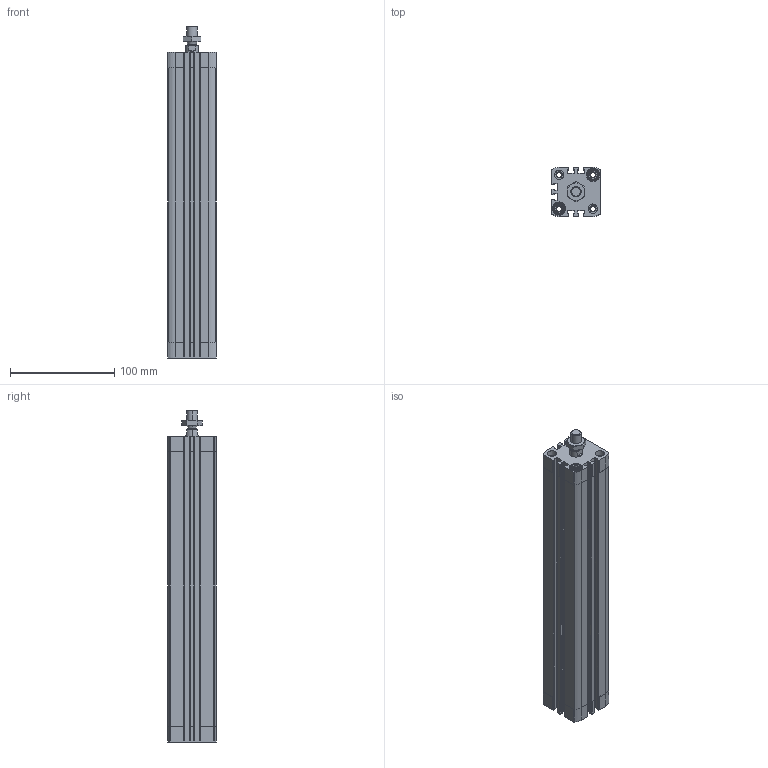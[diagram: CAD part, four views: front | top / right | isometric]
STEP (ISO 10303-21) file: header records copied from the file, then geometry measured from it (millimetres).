
FILE_DESCRIPTION (( 'STEP AP203' ), '1' );
FILE_NAME ('CCN32-250M.STEP', '2017-03-29T13:42:44', ( '' ), ( '' ), 'SwSTEP 2.0', 'SolidWorks 2016', '' );
FILE_SCHEMA (( 'CONFIG_CONTROL_DESIGN' ));
Length unit declared in the file: millimetre
Products named in the file (4): CCN-250_(KS); _DIN-439-B - M10x1.25(F); CCN32-250M; CCN-250---(Z)
Assembly tree (3 placements, depth 2):
  CCN32-250M
    CCN-250---(Z)
    CCN-250_(KS)
    _DIN-439-B - M10x1.25(F)
Bounding box: 47 x 47 x 319 mm (x, y, z)
Volume: 363491.4 mm3; surface area: 146773.8 mm2
Topology: 3 solids, 3 shells, 499 faces, 1334 edges, 872 vertices
Faces by surface type: plane 275, cylinder 172, cone 48, bspline 4
Entity records: 16246 total; most frequent: CARTESIAN_POINT 3119, DIRECTION 2720, ORIENTED_EDGE 2668, EDGE_CURVE 1334, AXIS2_PLACEMENT_3D 997, VERTEX_POINT 872, LINE 726, VECTOR 726
